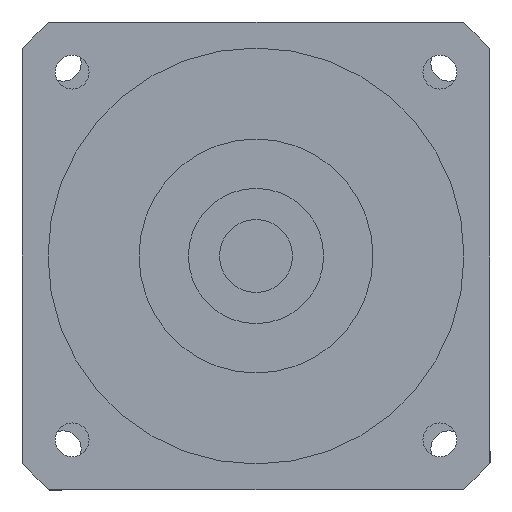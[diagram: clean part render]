
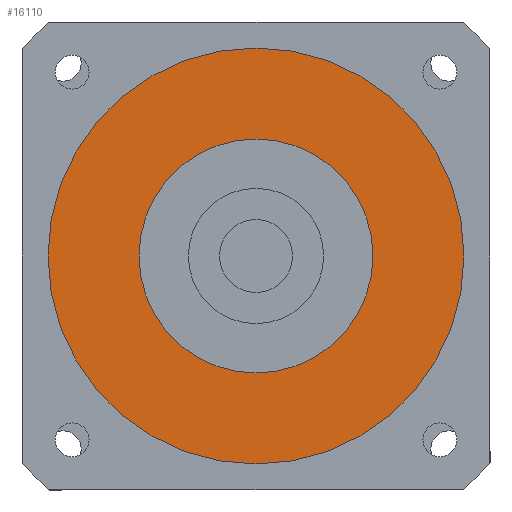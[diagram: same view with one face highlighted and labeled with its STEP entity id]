
A CAD part, left-side view. The second image highlights one B-rep face of the part: STEP entity #16110.
In plain terms, the highlighted planar face has unit normal (-1, 0, 0) as drawn and (0, 0, -1) by its records, which use the part's own axes.
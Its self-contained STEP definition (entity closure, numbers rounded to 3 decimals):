
#15680=CARTESIAN_POINT('',(0.,0.,
-129.));
#15690=DIRECTION('',(0.,0.,1.));
#15700=DIRECTION('',(-1.,0.,0.));
#15710=AXIS2_PLACEMENT_3D('',#15680,#15690,#15700);
#15720=PLANE('',#15710);
#15730=CARTESIAN_POINT('',(0.,0.,
-129.));
#15740=DIRECTION('',(0.,0.,1.));
#15750=DIRECTION('',(0.,-1.,0.));
#15760=AXIS2_PLACEMENT_3D('',#15730,#15740,#15750);
#15770=CIRCLE('',#15760,40.);
#15780=CARTESIAN_POINT('',(0.,-40.,-129.));
#15790=VERTEX_POINT('',#15780);
#15800=CARTESIAN_POINT('',(40.,0.,-129.));
#15810=VERTEX_POINT('',#15800);
#15820=EDGE_CURVE('',#15790,#15810,#15770,.T.);
#15830=ORIENTED_EDGE('',*,*,#15820,.F.);
#15840=CARTESIAN_POINT('',(-40.,0.,-129.));
#15850=VERTEX_POINT('',#15840);
#15860=EDGE_CURVE('',#15810,#15850,#15770,.T.);
#15870=ORIENTED_EDGE('',*,*,#15860,.F.);
#15880=EDGE_CURVE('',#15850,#15790,#15770,.T.);
#15890=ORIENTED_EDGE('',*,*,#15880,.F.);
#15900=EDGE_LOOP('',(#15890,#15870,#15830));
#15910=FACE_OUTER_BOUND('',#15900,.T.);
#15920=CARTESIAN_POINT('',(0.,0.,
-129.));
#15930=DIRECTION('',(0.,0.,1.));
#15940=DIRECTION('',(0.,-1.,0.));
#15950=AXIS2_PLACEMENT_3D('',#15920,#15930,#15940);
#15960=CIRCLE('',#15950,22.5);
#15970=CARTESIAN_POINT('',(22.5,0.,-129.));
#15980=VERTEX_POINT('',#15970);
#15990=CARTESIAN_POINT('',(-22.5,0.,-129.));
#16000=VERTEX_POINT('',#15990);
#16010=EDGE_CURVE('',#15980,#16000,#15960,.T.);
#16020=ORIENTED_EDGE('',*,*,#16010,.T.);
#16030=CARTESIAN_POINT('',(0.,-22.5,-129.));
#16040=VERTEX_POINT('',#16030);
#16050=EDGE_CURVE('',#16040,#15980,#15960,.T.);
#16060=ORIENTED_EDGE('',*,*,#16050,.T.);
#16070=EDGE_CURVE('',#16000,#16040,#15960,.T.);
#16080=ORIENTED_EDGE('',*,*,#16070,.T.);
#16090=EDGE_LOOP('',(#16080,#16060,#16020));
#16100=FACE_BOUND('',#16090,.T.);
#16110=ADVANCED_FACE('',(#15910,#16100),#15720,.F.);
